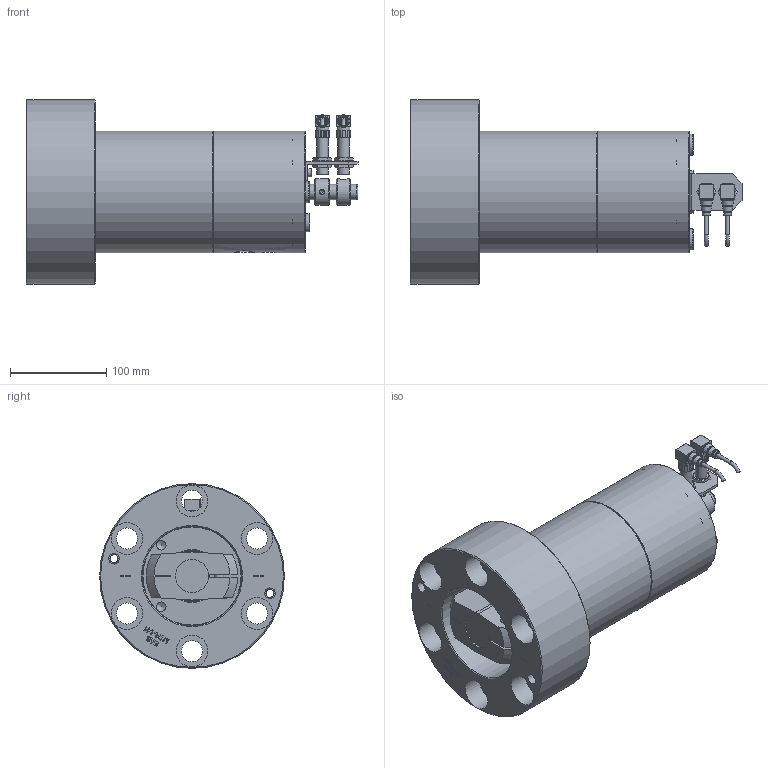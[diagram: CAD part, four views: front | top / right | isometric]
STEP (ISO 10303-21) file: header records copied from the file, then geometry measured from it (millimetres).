
FILE_DESCRIPTION((''),'2;1');
FILE_NAME('C:\Vault Workspace\Designs\MTR-141-09-05-12.stp','2012-05-09T10:58:32',('breep'),(''),'Autodesk Inventor 2011','Autodesk Inventor 2011','');
FILE_SCHEMA(('AUTOMOTIVE_DESIGN { 1 0 10303 214 1 1 1 1 }'));
Length unit declared in the file: millimetre
Products named in the file (1): Part1
Bounding box: 345 x 191.9 x 191.9 mm (x, y, z)
Volume: 3926625.1 mm3; surface area: 512356.8 mm2
Topology: 1 solids, 55 shells, 1431 faces, 3381 edges, 2155 vertices
Faces by surface type: plane 626, cylinder 373, cone 220, torus 124, bspline 68, sphere 20
Full cylindrical faces by diameter (mm): 0.5 x8, 2 x6, 2.5 x2, 2.6 x8, 3 x2, 3.2 x4, 3.242 x2, 4 x3, 4.134 x2, 5 x5, 5.5 x2, 6 x5, 6.5 x1, 8 x6, 8.376 x3, 8.5 x2, 9 x2, 10 x3, 10.106 x8, 10.917 x2, 11 x9, 11.2 x2, 11.43 x4, 11.5 x4, 11.6 x2, 12 x14, 12.2 x1, 13 x10, 13.25 x2, 14 x2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
Entity records: 39363 total; most frequent: CARTESIAN_POINT 9244, DIRECTION 5835, ORIENTED_EDGE 5096, EDGE_CURVE 2548, AXIS2_PLACEMENT_3D 2377, EDGE_LOOP 2221, VERTEX_POINT 1910, FACE_OUTER_BOUND 1428
